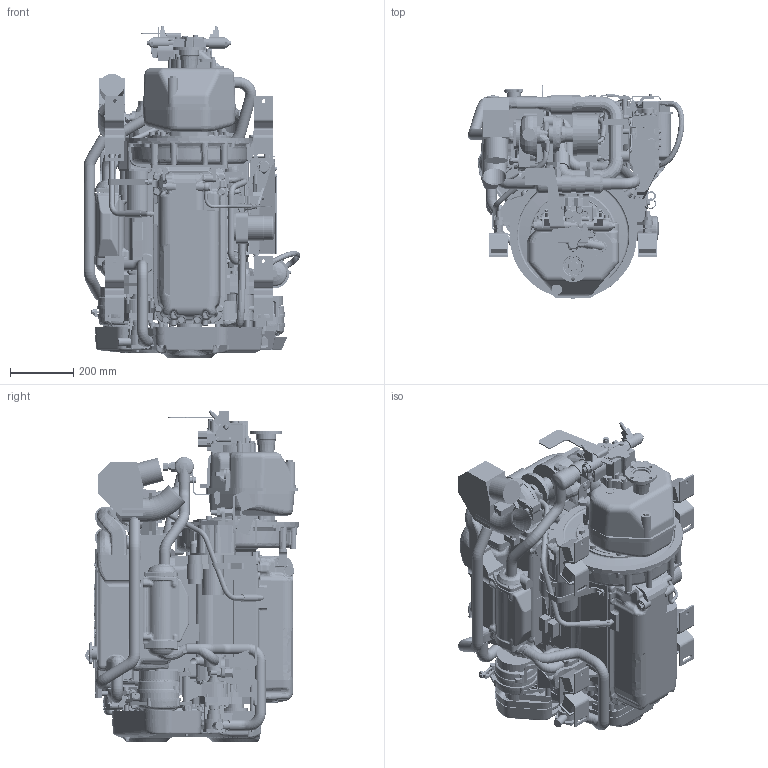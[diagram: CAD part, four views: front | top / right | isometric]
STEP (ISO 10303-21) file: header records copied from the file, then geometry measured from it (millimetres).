
FILE_DESCRIPTION((''),'2;1');
FILE_NAME('00_4JH80-110_ASM','2018-10-09T',('ib46307'),(''),'PRO/ENGINEER BY PARAMETRIC TECHNOLOGY CORPORATION, 2015360','PRO/ENGINEER BY PARAMETRIC TECHNOLOGY CORPORATION, 2015360','');
FILE_SCHEMA(('CONFIG_CONTROL_DESIGN'));
Products named in the file (149): D29677-01100-SW01-L_1; D29677-01210-SW01-L_1; D27677-01300-SW01-L_1; D29673-01700-4JH110-SW01-L_1; D29677-01910-SW01-L_1; D29055-07300-1-4JH100-SW01_1; MANIFOLD_SOLID_BREP_179433; MANIFOLD_SOLID_BREP_180583; MANIFOLD_SOLID_BREP_181733; MANIFOLD_SOLID_BREP_182885; MANIFOLD_SOLID_BREP_184051; D29677-11100-SW01-L_1_ASM; D29677-11250-SW01-L_1; D29677-12100-SW01-L_1; MANIFOLD_SOLID_BREP_217591; MANIFOLD_SOLID_BREP_218860; D29677-21200-SW01-L_1_ASM; D29677-21300-SW01-L_1; D29A00-21700-4JH110-SW01_1; D29677-35200-SW01-L_1; D29677-39100-SW01_1; D29677-42300-SW01-L_1; MANIFOLD_SOLID_BREP_266955; MANIFOLD_SOLID_BREP_267117; D29470-49300-SW01_1_ASM; D29A00-51100-4JH110-SW01-L_1; MANIFOLD_SOLID_BREP_311681; MANIFOLD_SOLID_BREP_312357; MANIFOLD_SOLID_BREP_313033; MANIFOLD_SOLID_BREP_313629; D29677-53100-SW01-L_1_ASM; D29677-57110-SW01-L_1; MANIFOLD_SOLID_BREP_328700; MANIFOLD_SOLID_BREP_330731; MANIFOLD_SOLID_BREP_332762; D29677-59100-SW01-L_1_ASM; D29677-59350-SW01-L_1; B2-29677-090X-L_ASM_1_ASM; MANIFOLD_SOLID_BREP_336978; MANIFOLD_SOLID_BREP_337880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
Assembly tree (148 placements, depth 7):
  00_4JH80-110_ASM
    00_BASE_ASM
      PUB-4JH110_ASM_1_ASM
        B2-29677-001X-L_ASM_1_ASM
          B2-29677-090X-L_ASM_1_ASM
            D29677-01100-SW01-L_1
            D29677-01210-SW01-L_1
            D27677-01300-SW01-L_1
            D29673-01700-4JH110-SW01-L_1
            D29677-01910-SW01-L_1
            D29055-07300-1-4JH100-SW01_1
            D29677-11100-SW01-L_1_ASM
              MANIFOLD_SOLID_BREP_179433
              MANIFOLD_SOLID_BREP_180583
              MANIFOLD_SOLID_BREP_181733
              MANIFOLD_SOLID_BREP_182885
              MANIFOLD_SOLID_BREP_184051
            D29677-11250-SW01-L_1
            D29677-12100-SW01-L_1
            D29677-21200-SW01-L_1_ASM
              MANIFOLD_SOLID_BREP_217591
              MANIFOLD_SOLID_BREP_218860
            D29677-21300-SW01-L_1
            D29A00-21700-4JH110-SW01_1
            D29677-35200-SW01-L_1
            D29677-39100-SW01_1
            D29677-42300-SW01-L_1
            D29470-49300-SW01_1_ASM
              MANIFOLD_SOLID_BREP_266955
              MANIFOLD_SOLID_BREP_267117
            D29A00-51100-4JH110-SW01-L_1
            D29677-53100-SW01-L_1_ASM
              MANIFOLD_SOLID_BREP_311681
              MANIFOLD_SOLID_BREP_312357
              MANIFOLD_SOLID_BREP_313033
              MANIFOLD_SOLID_BREP_313629
            D29677-57110-SW01-L_1
            D29677-59100-SW01-L_1_ASM
              MANIFOLD_SOLID_BREP_328700
              MANIFOLD_SOLID_BREP_330731
              MANIFOLD_SOLID_BREP_332762
            D29677-59350-SW01-L_1
          D29677-03100-SW01_1_ASM
            MANIFOLD_SOLID_BREP_336978
            MANIFOLD_SOLID_BREP_337880
          D29671-08100-4JH110-SW01-L_1_ASM
            MANIFOLD_SOLID_BREP_341010
            MANIFOLD_SOLID_BREP_346163
            MANIFOLD_SOLID_BREP_349182
            MANIFOLD_SOLID_BREP_353360
          D29677-09220-SW01-L_1
          D29472-12140-4JH110-SW01-L_1
          D29677-18100-SW01-L_1
          D29672-18210-JH-SW1-L_1
          D29672-18250-4JH110-SW01-L_1
          D29693-18260-4JH110-SW01-L_1
          D29677-34200-SW01-L_1_ASM
            MANIFOLD_SOLID_BREP_490449
            MANIFOLD_SOLID_BREP_491377
          D29677-39250-SW01-L_1_ASM
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Bounding box: 684.03 x 674.74 x 1049.09 mm (x, y, z)
Volume: 103583489 mm3; surface area: 10361208.1 mm2
Topology: 98 solids, 108 shells, 16917 faces, 46185 edges, 29909 vertices
Faces by surface type: plane 6472, cylinder 4813, bspline 3287, torus 1003, cone 931, sphere 303, extrusion 97, revolution 11
Entity records: 924914 total; most frequent: CARTESIAN_POINT 522378, ORIENTED_EDGE 91751, DIRECTION 72134, EDGE_CURVE 45877, VERTEX_POINT 29910, AXIS2_PLACEMENT_3D 26766, VECTOR 18591, LINE 18494
